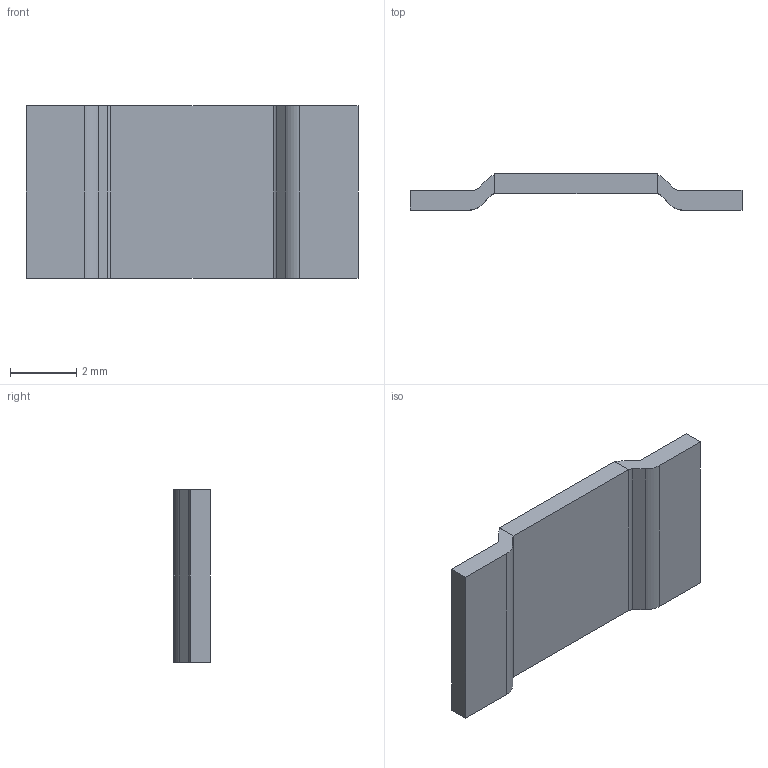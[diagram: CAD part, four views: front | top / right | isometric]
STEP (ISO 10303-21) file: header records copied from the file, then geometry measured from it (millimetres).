
FILE_DESCRIPTION (( 'STEP AP203' ), '1' );
FILE_NAME ('PEWK 3920-2m¦¸.STEP', '2023-11-01T05:36:29', ( 'meks@163.com' ), ( '' ), 'SwSTEP 2.0', 'SolidWorks 2020', '' );
FILE_SCHEMA (( 'CONFIG_CONTROL_DESIGN' ));
Length unit declared in the file: millimetre
Products named in the file (1): PEWK 3920-2m次
Bounding box: 10 x 1.1 x 5.2 mm (x, y, z)
Volume: 31 mm3; surface area: 138.3 mm2
Topology: 3 solids, 3 shells, 145 faces, 387 edges, 258 vertices
Faces by surface type: plane 105, bspline 24, cylinder 16
Entity records: 6046 total; most frequent: CARTESIAN_POINT 2479, ORIENTED_EDGE 774, DIRECTION 615, EDGE_CURVE 387, LINE 307, VECTOR 307, VERTEX_POINT 258, EDGE_LOOP 155
